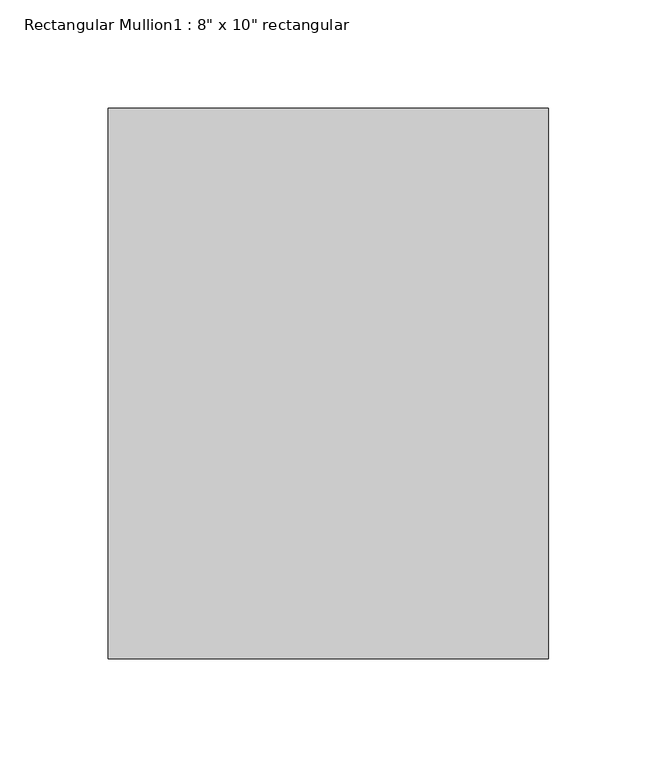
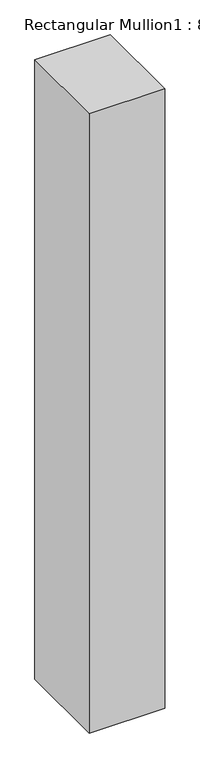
"""IFC4 building model written with IfcOpenShell, lengths in millimetres: member geometry."""

from ifc_helpers import new_model, si_unit, frame, origin, place, context, project, spatial, polyline, outline, extrude, source, transform, mapped, element, save


def member_136c1585(model_context):
    return source(origin(), model_context, "Body", "SweptSolid", [
        extrude(outline(polyline([(0.0, 127.0), (0.0, -127.0), (-203.2, -127.0), (-203.2, 127.0), (0.0, 127.0)])), frame((0.0, 0.0, -1765.3), z_axis=(0.0, 0.0, 1.0), x_axis=(1.0, 0.0, 0.0)), (0.0, 0.0, 1.0), 1765.3),
    ])


if __name__ == "__main__":
    model = new_model("IFC4")
    model_context = context("Model", 3, world=origin())
    ifc_project = project(units=[si_unit("LENGTHUNIT", "METRE", prefix="MILLI")], contexts=[model_context])
    site = spatial("IfcSite", under=ifc_project)
    building = spatial("IfcBuilding", under=site)
    placement = place(None, origin())
    member_shape = member_136c1585(model_context)
    element("IfcMember", 1, ObjectType="Rectangular Mullion1 : 8\" x 10\" rectangular", at=placement, inside=building, context=model_context, shape_type="MappedRepresentation", body=[
        mapped(member_shape, transform((0.0, 0.0, 0.0), x_axis=(1.0, 0.0, 0.0), y_axis=(0.0, 1.0, 0.0), z_axis=(0.0, 0.0, 1.0))),
    ])
    save(model, "model.ifc")
